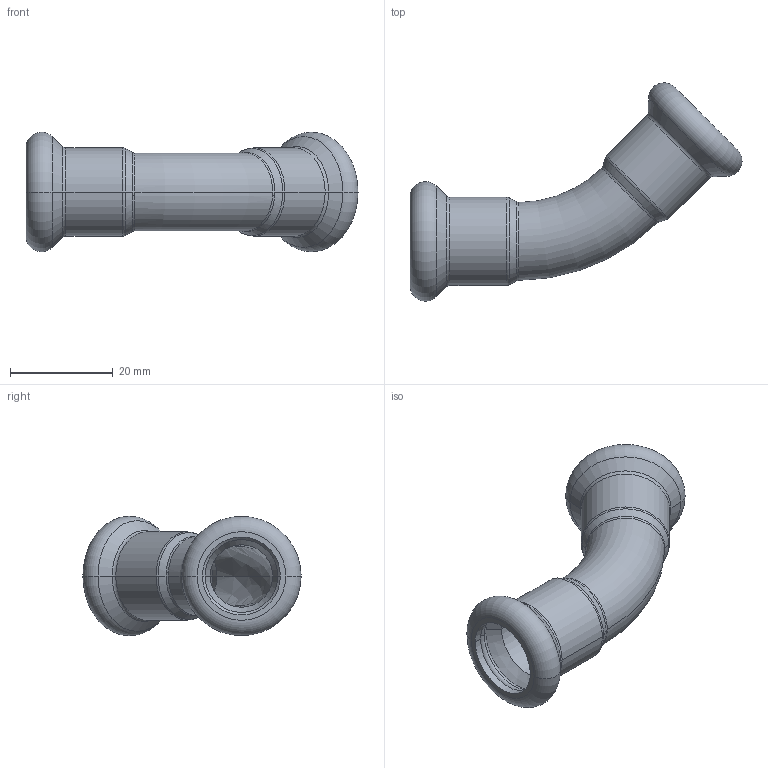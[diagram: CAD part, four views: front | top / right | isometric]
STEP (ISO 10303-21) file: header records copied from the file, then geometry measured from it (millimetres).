
FILE_DESCRIPTION (( 'STEP AP214' ), '1' );
FILE_NAME ('E150045.STEP', '2025-08-17T07:10:53', ( '' ), ( '' ), 'SwSTEP 2.0', 'SolidWorks 2020', '' );
FILE_SCHEMA (( 'AUTOMOTIVE_DESIGN' ));
Length unit declared in the file: millimetre
Products named in the file (1): E150045
Bounding box: 64.76 x 42.56 x 23.29 mm (x, y, z)
Volume: 5773.2 mm3; surface area: 8100.8 mm2
Topology: 3 solids, 3 shells, 64 faces, 136 edges, 76 vertices
Faces by surface type: torus 26, cone 16, cylinder 12, bspline 6, plane 4
Entity records: 3593 total; most frequent: CARTESIAN_POINT 1472, DIRECTION 322, ORIENTED_EDGE 272, AXIS2_PLACEMENT_3D 147, EDGE_CURVE 136, CIRCLE 88, VERTEX_POINT 76, EDGE_LOOP 68
